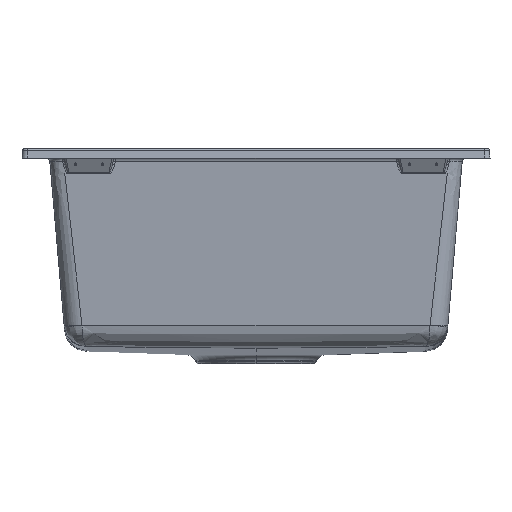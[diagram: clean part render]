
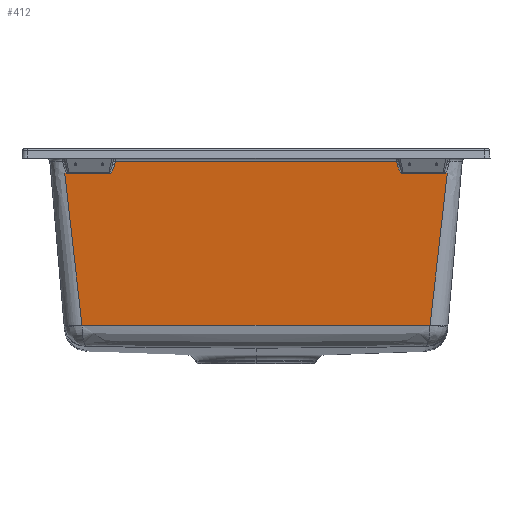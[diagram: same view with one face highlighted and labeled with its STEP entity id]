
A CAD part, front view. The second image highlights one B-rep face of the part: STEP entity #412.
In plain terms, the highlighted planar face has unit normal (0, -0.996, -0.087).
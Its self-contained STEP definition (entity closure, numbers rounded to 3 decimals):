
#57=PLANE('',#4258);
#266=B_SPLINE_CURVE_WITH_KNOTS('',3,(#6616,#6617,#6618,#6619),
 .UNSPECIFIED.,.F.,.F.,(4,4),(0.,1.),.UNSPECIFIED.);
#273=B_SPLINE_CURVE_WITH_KNOTS('',3,(#6709,#6710,#6711,#6712),
 .UNSPECIFIED.,.F.,.F.,(4,4),(0.,1.),.UNSPECIFIED.);
#278=B_SPLINE_CURVE_WITH_KNOTS('',3,(#6904,#6905,#6906,#6907),
 .UNSPECIFIED.,.F.,.F.,(4,4),(0.,1.),.UNSPECIFIED.);
#283=B_SPLINE_CURVE_WITH_KNOTS('',3,(#7102,#7103,#7104,#7105),
 .UNSPECIFIED.,.F.,.F.,(4,4),(0.,1.),.UNSPECIFIED.);
#284=B_SPLINE_CURVE_WITH_KNOTS('',3,(#7107,#7108,#7109,#7110,#7111,#7112,
#7113,#7114,#7115,#7116),.UNSPECIFIED.,.F.,.F.,(4,2,2,2,4),(0.,0.25,0.5,
0.75,1.),.UNSPECIFIED.);
#285=B_SPLINE_CURVE_WITH_KNOTS('',3,(#7118,#7119,#7120,#7121),
 .UNSPECIFIED.,.F.,.F.,(4,4),(0.,1.),.UNSPECIFIED.);
#412=ADVANCED_FACE('',(#783),#57,.T.);
#783=FACE_OUTER_BOUND('',#1054,.T.);
#1054=EDGE_LOOP('',(#2104,#2105,#2106,#2107,#2108,#2109,#2110,#2111,#2112,
#2113,#2114,#2115,#2116,#2117,#2118,#2119));
#1582=LINE('',#6833,#1765);
#1583=LINE('',#6902,#1766);
#1584=LINE('',#7088,#1767);
#1585=LINE('',#7089,#1768);
#1586=LINE('',#7096,#1769);
#1587=LINE('',#7127,#1770);
#1765=VECTOR('',#4815,1.);
#1766=VECTOR('',#4818,1.);
#1767=VECTOR('',#4819,1.);
#1768=VECTOR('',#4820,1.);
#1769=VECTOR('',#4821,1.);
#1770=VECTOR('',#4822,1.);
#2104=ORIENTED_EDGE('',*,*,#3668,.T.);
#2105=ORIENTED_EDGE('',*,*,#3669,.T.);
#2106=ORIENTED_EDGE('',*,*,#3657,.T.);
#2107=ORIENTED_EDGE('',*,*,#3670,.T.);
#2108=ORIENTED_EDGE('',*,*,#3671,.T.);
#2109=ORIENTED_EDGE('',*,*,#3672,.T.);
#2110=ORIENTED_EDGE('',*,*,#3673,.T.);
#2111=ORIENTED_EDGE('',*,*,#3649,.T.);
#2112=ORIENTED_EDGE('',*,*,#3656,.F.);
#2113=ORIENTED_EDGE('',*,*,#3674,.F.);
#2114=ORIENTED_EDGE('',*,*,#3675,.F.);
#2115=ORIENTED_EDGE('',*,*,#3676,.F.);
#2116=ORIENTED_EDGE('',*,*,#3663,.F.);
#2117=ORIENTED_EDGE('',*,*,#3662,.T.);
#2118=ORIENTED_EDGE('',*,*,#3677,.T.);
#2119=ORIENTED_EDGE('',*,*,#3678,.T.);
#3261=VERTEX_POINT('',#6620);
#3262=VERTEX_POINT('',#6621);
#3268=VERTEX_POINT('',#6708);
#3269=VERTEX_POINT('',#6834);
#3270=VERTEX_POINT('',#6835);
#3273=VERTEX_POINT('',#6901);
#3274=VERTEX_POINT('',#6903);
#3275=VERTEX_POINT('',#6908);
#3279=VERTEX_POINT('',#7086);
#3280=VERTEX_POINT('',#7087);
#3281=VERTEX_POINT('',#7090);
#3282=VERTEX_POINT('',#7095);
#3283=VERTEX_POINT('',#7097);
#3284=VERTEX_POINT('',#7106);
#3285=VERTEX_POINT('',#7117);
#3286=VERTEX_POINT('',#7126);
#3649=EDGE_CURVE('',#3261,#3262,#266,.T.);
#3656=EDGE_CURVE('',#3268,#3262,#273,.T.);
#3657=EDGE_CURVE('',#3269,#3270,#1582,.T.);
#3662=EDGE_CURVE('',#3274,#3273,#1583,.T.);
#3663=EDGE_CURVE('',#3274,#3275,#278,.T.);
#3668=EDGE_CURVE('',#3279,#3280,#4106,.T.);
#3669=EDGE_CURVE('',#3280,#3269,#1584,.T.);
#3670=EDGE_CURVE('',#3270,#3281,#1585,.T.);
#3671=EDGE_CURVE('',#3281,#3282,#4107,.T.);
#3672=EDGE_CURVE('',#3282,#3283,#1586,.T.);
#3673=EDGE_CURVE('',#3283,#3261,#4108,.T.);
#3674=EDGE_CURVE('',#3284,#3268,#283,.T.);
#3675=EDGE_CURVE('',#3285,#3284,#284,.T.);
#3676=EDGE_CURVE('',#3275,#3285,#285,.T.);
#3677=EDGE_CURVE('',#3273,#3286,#4109,.T.);
#3678=EDGE_CURVE('',#3286,#3279,#1587,.T.);
#4106=(
BOUNDED_CURVE()
B_SPLINE_CURVE(3,(#7082,#7083,#7084,#7085),.UNSPECIFIED.,.F.,.F.)
B_SPLINE_CURVE_WITH_KNOTS((4,4),(0.,1.),.UNSPECIFIED.)
CURVE()
GEOMETRIC_REPRESENTATION_ITEM()
RATIONAL_B_SPLINE_CURVE((1.,0.829,0.829,1.))
REPRESENTATION_ITEM('')
);
#4107=(
BOUNDED_CURVE()
B_SPLINE_CURVE(3,(#7091,#7092,#7093,#7094),.UNSPECIFIED.,.F.,.F.)
B_SPLINE_CURVE_WITH_KNOTS((4,4),(0.,1.),.UNSPECIFIED.)
CURVE()
GEOMETRIC_REPRESENTATION_ITEM()
RATIONAL_B_SPLINE_CURVE((1.,0.829,0.829,1.))
REPRESENTATION_ITEM('')
);
#4108=(
BOUNDED_CURVE()
B_SPLINE_CURVE(3,(#7098,#7099,#7100,#7101),.UNSPECIFIED.,.F.,.F.)
B_SPLINE_CURVE_WITH_KNOTS((4,4),(0.,1.),.UNSPECIFIED.)
CURVE()
GEOMETRIC_REPRESENTATION_ITEM()
RATIONAL_B_SPLINE_CURVE((1.,0.992,0.992,1.))
REPRESENTATION_ITEM('')
);
#4109=(
BOUNDED_CURVE()
B_SPLINE_CURVE(3,(#7122,#7123,#7124,#7125),.UNSPECIFIED.,.F.,.F.)
B_SPLINE_CURVE_WITH_KNOTS((4,4),(0.,1.),.UNSPECIFIED.)
CURVE()
GEOMETRIC_REPRESENTATION_ITEM()
RATIONAL_B_SPLINE_CURVE((1.,0.992,0.992,1.))
REPRESENTATION_ITEM('')
);
#4258=AXIS2_PLACEMENT_3D('',#7128,#4823,#4824);
#4815=DIRECTION('',(-1.,0.,0.));
#4818=DIRECTION('',(-1.,0.,0.));
#4819=DIRECTION('',(-0.207,-0.085,0.975));
#4820=DIRECTION('',(-0.207,0.085,-0.975));
#4821=DIRECTION('',(-1.,0.,0.));
#4822=DIRECTION('',(-1.,0.,0.));
#4823=DIRECTION('',(0.,-0.996,-0.087));
#4824=DIRECTION('',(0.,-0.087,0.996));
#6616=CARTESIAN_POINT('',(-189.178,-199.217,342.317));
#6617=CARTESIAN_POINT('',(-190.14,-199.217,342.317));
#6618=CARTESIAN_POINT('',(-191.102,-199.217,342.317));
#6619=CARTESIAN_POINT('',(-192.064,-199.217,342.317));
#6620=CARTESIAN_POINT('',(-189.178,-199.217,342.317));
#6621=CARTESIAN_POINT('',(-192.064,-199.217,342.317));
#6708=CARTESIAN_POINT('',(-174.771,-185.871,189.762));
#6709=CARTESIAN_POINT('',(-174.771,-185.871,189.762));
#6710=CARTESIAN_POINT('',(-179.23,-190.329,240.727));
#6711=CARTESIAN_POINT('',(-185.52,-194.774,291.533));
#6712=CARTESIAN_POINT('',(-192.064,-199.217,342.317));
#6833=CARTESIAN_POINT('',(-200.24,-200.251,354.137));
#6834=CARTESIAN_POINT('',(141.322,-200.251,354.137));
#6835=CARTESIAN_POINT('',(-141.322,-200.251,354.137));
#6901=CARTESIAN_POINT('',(189.178,-199.217,342.317));
#6902=CARTESIAN_POINT('',(-200.24,-199.217,342.317));
#6903=CARTESIAN_POINT('',(192.064,-199.217,342.317));
#6904=CARTESIAN_POINT('',(192.064,-199.217,342.317));
#6905=CARTESIAN_POINT('',(185.52,-194.774,291.533));
#6906=CARTESIAN_POINT('',(179.23,-190.329,240.727));
#6907=CARTESIAN_POINT('',(174.771,-185.871,189.762));
#6908=CARTESIAN_POINT('',(174.771,-185.871,189.762));
#7082=CARTESIAN_POINT('',(147.785,-199.175,341.831));
#7083=CARTESIAN_POINT('',(145.485,-199.175,341.831));
#7084=CARTESIAN_POINT('',(143.179,-199.487,345.399));
#7085=CARTESIAN_POINT('',(142.052,-199.951,350.702));
#7086=CARTESIAN_POINT('',(147.785,-199.175,341.831));
#7087=CARTESIAN_POINT('',(142.052,-199.951,350.702));
#7088=CARTESIAN_POINT('',(124.047,-207.362,435.41));
#7089=CARTESIAN_POINT('',(-141.233,-200.288,354.557));
#7090=CARTESIAN_POINT('',(-142.052,-199.951,350.702));
#7091=CARTESIAN_POINT('',(-142.052,-199.951,350.702));
#7092=CARTESIAN_POINT('',(-143.179,-199.487,345.399));
#7093=CARTESIAN_POINT('',(-145.485,-199.175,341.831));
#7094=CARTESIAN_POINT('',(-147.785,-199.175,341.831));
#7095=CARTESIAN_POINT('',(-147.785,-199.175,341.831));
#7096=CARTESIAN_POINT('',(-187.685,-199.175,341.831));
#7097=CARTESIAN_POINT('',(-187.775,-199.175,341.831));
#7098=CARTESIAN_POINT('',(-187.775,-199.175,341.831));
#7099=CARTESIAN_POINT('',(-188.225,-199.175,341.831));
#7100=CARTESIAN_POINT('',(-188.696,-199.189,341.994));
#7101=CARTESIAN_POINT('',(-189.178,-199.217,342.317));
#7102=CARTESIAN_POINT('',(-174.767,-185.866,189.709));
#7103=CARTESIAN_POINT('',(-174.768,-185.867,189.727));
#7104=CARTESIAN_POINT('',(-174.77,-185.869,189.745));
#7105=CARTESIAN_POINT('',(-174.771,-185.871,189.762));
#7106=CARTESIAN_POINT('',(-174.767,-185.866,189.709));
#7107=CARTESIAN_POINT('',(174.767,-185.866,189.709));
#7108=CARTESIAN_POINT('',(145.641,-185.817,189.15));
#7109=CARTESIAN_POINT('',(116.515,-185.777,188.687));
#7110=CARTESIAN_POINT('',(58.26,-185.721,188.05));
#7111=CARTESIAN_POINT('',(29.131,-185.706,187.879));
#7112=CARTESIAN_POINT('',(-29.131,-185.706,187.879));
#7113=CARTESIAN_POINT('',(-58.26,-185.721,188.05));
#7114=CARTESIAN_POINT('',(-116.515,-185.777,188.687));
#7115=CARTESIAN_POINT('',(-145.641,-185.817,189.15));
#7116=CARTESIAN_POINT('',(-174.767,-185.866,189.709));
#7117=CARTESIAN_POINT('',(174.767,-185.866,189.709));
#7118=CARTESIAN_POINT('',(174.771,-185.871,189.762));
#7119=CARTESIAN_POINT('',(174.77,-185.869,189.745));
#7120=CARTESIAN_POINT('',(174.768,-185.867,189.727));
#7121=CARTESIAN_POINT('',(174.767,-185.866,189.709));
#7122=CARTESIAN_POINT('',(189.178,-199.217,342.317));
#7123=CARTESIAN_POINT('',(188.696,-199.189,341.994));
#7124=CARTESIAN_POINT('',(188.225,-199.175,341.831));
#7125=CARTESIAN_POINT('',(187.775,-199.175,341.831));
#7126=CARTESIAN_POINT('',(187.775,-199.175,341.831));
#7127=CARTESIAN_POINT('',(-200.24,-199.175,341.831));
#7128=CARTESIAN_POINT('',(-200.24,-201.377,367.004));
